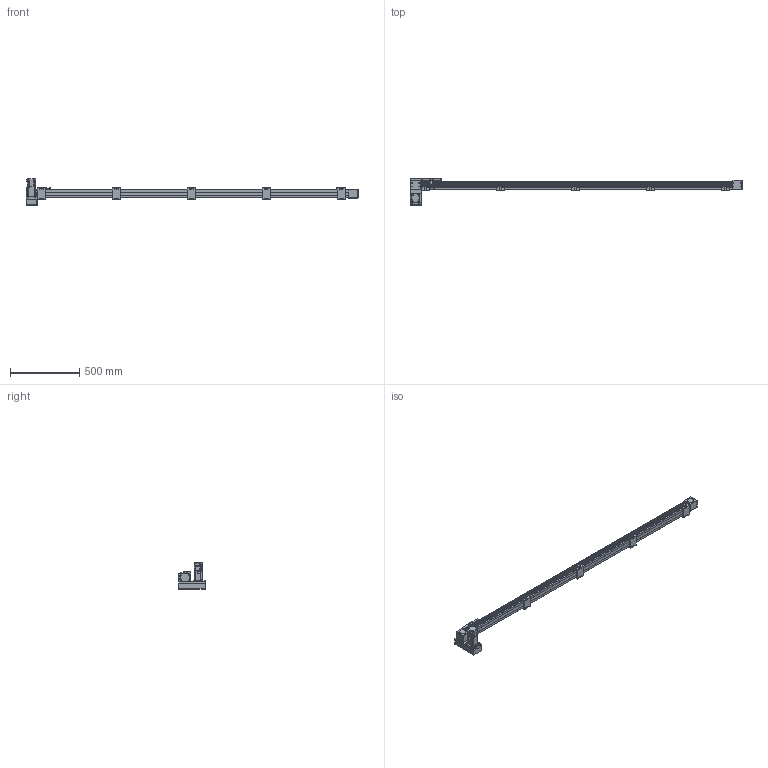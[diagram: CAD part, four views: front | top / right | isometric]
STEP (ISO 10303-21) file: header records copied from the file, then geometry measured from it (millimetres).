
FILE_DESCRIPTION(/* description */ ('STEP AP214'),/* implementation_level */ '2;1');
FILE_NAME(/* name */ 'SK60-P13-S2100-LD-T40-C1-N(0)',/* time_stamp */ '2023-04-06T04:39:36+02:00',/* author */ ('License CC BY-ND 4.0'),/* organization */ ('CADENAS'),/* preprocessor_version */ 'ST-DEVELOPER v19.3',/* originating_system */ 'PARTsolutions',/* authorisation */ ' ');
FILE_SCHEMA (('AUTOMOTIVE_DESIGN {1 0 10303 214 3 1 1}'));
Length unit declared in the file: millimetre
Products named in the file (10): SK60-P13-S2100-LD-T40-C1-N(0); PSC140-sensor; SK60-S450_seat; SK60-S450-BL-C1_slider; SK60_body3; SK60_body6; SK60-BL_body2; T40-p1; SK60-LD_fb; SK60-S2100-LD-C1_body
Assembly tree (19 placements, depth 2):
  SK60-P13-S2100-LD-T40-C1-N(0)
    PSC140-sensor  x3
    SK60-S450_seat  x5
    SK60-S450-BL-C1_slider
    SK60_body3  x3
    SK60_body6  x2
    SK60-BL_body2  x2
    T40-p1
    SK60-LD_fb
    SK60-S2100-LD-C1_body
Bounding box: 2405.5 x 199 x 189.7 mm (x, y, z)
Volume: 9391838 mm3; surface area: 1124480.4 mm2
Topology: 19 solids, 19 shells, 942 faces, 2342 edges, 1541 vertices
Faces by surface type: plane 596, cylinder 310, cone 34, torus 2
Full cylindrical faces by diameter (mm): 2.8 x3, 3.3 x4, 4 x2, 4.5 x30, 4.6 x3, 4.917 x28, 5 x6, 5.478 x4, 5.5 x31, 6.5 x10, 7 x2, 8 x4, 8.5 x4, 9.988 x4, 10 x20, 14 x1, 47 x3, 50 x2
Entity records: 18679 total; most frequent: DIRECTION 3190, CARTESIAN_POINT 3153, ORIENTED_EDGE 2940, EDGE_CURVE 1470, AXIS2_PLACEMENT_3D 1071, LINE 1048, VECTOR 1048, VERTEX_POINT 1034
